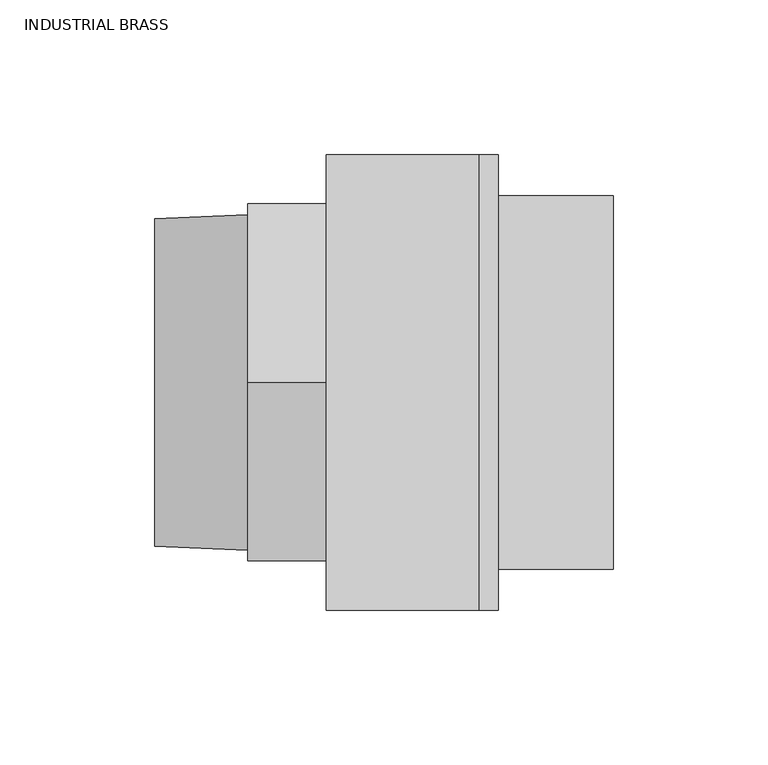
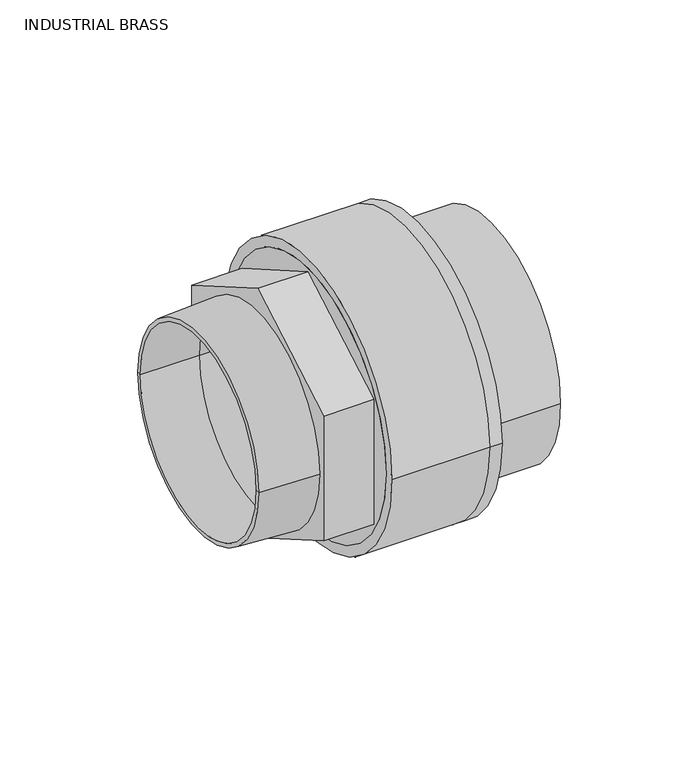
"""IFC4 building model written with IfcOpenShell, lengths in millimetres: valve geometry, Aquatherm - Transition Piece - M HEX : INDUSTRIAL BRASS."""

from ifc_helpers import new_model, si_unit, frame, origin, place, context, project, spatial, polyline, circle_curve, source, transform, mapped, element, save
from ifc_brep_helpers import plane_surface, cylinder_surface, revolved_surface, advanced_brep


def industrial_brass_34c5be5d(model_context):
    return source(origin(), model_context, "Body", "AdvancedBrep", [
        advanced_brep(
        [(49.276, -68.326, 0.0), (49.276, 68.326, 0.0), (49.276, -50.8, 0.0), (49.276, 50.8, 0.0), (0.0, -68.326, 0.0), (0.0, 68.326, 0.0), (0.0, 0.0, -66.5777236), (0.0, 57.658, -33.2888618), (0.0, 57.658, 33.2888618), (0.0, 0.0, 66.5777236), (0.0, -57.658, 33.2888618), (0.0, -57.658, -33.2888618), (0.0, -50.8, 0.0), (0.0, 50.8, 0.0), (-25.4, 0.0, -66.5777236), (-25.4, -57.658, -33.2888618), (-25.4, -57.658, 33.2888618), (-25.4, 0.0, 66.5777236), (-25.4, 57.658, 33.2888618), (-25.4, 57.658, -33.2888618), (-25.4, -54.2437038, 0.0), (-25.4, 54.2437038, 0.0), (-25.4, -50.8, 0.0), (-25.4, 50.8, 0.0), (-55.372, 50.8, 0.0), (-55.372, -50.8, 0.0), (-55.372, 52.9125462, 0.0), (-55.372, -52.9125462, 0.0)],
        [
            (0, 1, circle_curve(frame((49.276, 0.0, 0.0), z_axis=(1.0, 0.0, 0.0), x_axis=(0.0, 1.0, 0.0)), 68.326)),
            (1, 0, circle_curve(frame((49.276, 0.0, 0.0), z_axis=(1.0, 0.0, 0.0), x_axis=(0.0, 1.0, 0.0)), 68.326)),
            (2, 3, circle_curve(frame((49.276, 0.0, 0.0), z_axis=(-1.0, 0.0, 0.0), x_axis=(0.0, 1.0, 0.0)), 50.8)),
            (3, 2, circle_curve(frame((49.276, 0.0, 0.0), z_axis=(-1.0, 0.0, 0.0), x_axis=(0.0, 1.0, 0.0)), 50.8)),
            (4, 5, circle_curve(frame((0.0, 0.0, 0.0), z_axis=(-1.0, 0.0, 0.0), x_axis=(0.0, 1.0, 0.0)), 68.326)),
            (5, 4, circle_curve(frame((0.0, 0.0, 0.0), z_axis=(-1.0, 0.0, 0.0), x_axis=(0.0, 1.0, 0.0)), 68.326)),
            (6, 7),
            (7, 8),
            (8, 9),
            (9, 10),
            (10, 11),
            (11, 6),
            (0, 4),
            (5, 1),
            (2, 12),
            (12, 13, circle_curve(frame((0.0, 0.0, 0.0), z_axis=(-1.0, 0.0, 0.0), x_axis=(0.0, 1.0, 0.0)), 50.8)),
            (13, 3),
            (13, 12, circle_curve(frame((0.0, 0.0, 0.0), z_axis=(-1.0, 0.0, 0.0), x_axis=(0.0, 1.0, 0.0)), 50.8)),
            (14, 15),
            (15, 16),
            (16, 17),
            (17, 18),
            (18, 19),
            (19, 14),
            (20, 21, circle_curve(frame((-25.4, 0.0, 0.0), z_axis=(1.0, 0.0, 0.0), x_axis=(0.0, 1.0, 0.0)), 54.2437038)),
            (21, 20, circle_curve(frame((-25.4, 0.0, 0.0), z_axis=(1.0, 0.0, 0.0), x_axis=(0.0, 1.0, 0.0)), 54.2437038)),
            (19, 7),
            (6, 14),
            (18, 8),
            (17, 9),
            (16, 10),
            (15, 11),
            (12, 22),
            (22, 23, circle_curve(frame((-25.4, 0.0, 0.0), z_axis=(-1.0, 0.0, 0.0), x_axis=(0.0, 1.0, 0.0)), 50.8)),
            (23, 13),
            (23, 22, circle_curve(frame((-25.4, 0.0, 0.0), z_axis=(-1.0, 0.0, 0.0), x_axis=(0.0, 1.0, 0.0)), 50.8)),
            (23, 24),
            (24, 25, circle_curve(frame((-55.372, 0.0, 0.0), z_axis=(-1.0, 0.0, 0.0), x_axis=(0.0, 1.0, 0.0)), 50.8)),
            (25, 22),
            (25, 24, circle_curve(frame((-55.372, 0.0, 0.0), z_axis=(-1.0, 0.0, 0.0), x_axis=(0.0, 1.0, 0.0)), 50.8)),
            (24, 26),
            (26, 27, circle_curve(frame((-55.372, 0.0, 0.0), z_axis=(-1.0, 0.0, 0.0), x_axis=(0.0, 1.0, 0.0)), 52.9125462)),
            (27, 25),
            (27, 26, circle_curve(frame((-55.372, 0.0, 0.0), z_axis=(-1.0, 0.0, 0.0), x_axis=(0.0, 1.0, 0.0)), 52.9125462)),
            (26, 21),
            (20, 27),
        ],
        [
            plane_surface(frame((49.276, 68.326, 0.0), z_axis=(1.0, 0.0, 0.0), x_axis=(0.0, 0.0, 1.0))),
            plane_surface(frame((0.0, 68.326, 0.0), z_axis=(-1.0, 0.0, 0.0), x_axis=(0.0, 0.0, -1.0))),
            cylinder_surface(frame((0.0, 0.0, 0.0), z_axis=(1.0, 0.0, 0.0), x_axis=(0.0, 1.0, 0.0)), 68.326),
            revolved_surface(polyline([(0.0, 50.8, 0.0), (49.276, 50.8, 0.0)]), (17.447219, 0.0, 0.0), (-1.0, 0.0, 0.0)),
            plane_surface(frame((-25.4, 0.0, -66.5777236), z_axis=(-1.0, 0.0, 0.0), x_axis=(0.0, -0.8660254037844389, -0.4999999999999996))),
            plane_surface(frame((0.0, 0.0, -66.5777236), z_axis=(0.0, 0.4999999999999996, -0.8660254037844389), x_axis=(-1.0, 0.0, 0.0))),
            plane_surface(frame((0.0, 57.658, -33.2888618), z_axis=(0.0, 1.0, 0.0), x_axis=(-1.0, 0.0, 0.0))),
            plane_surface(frame((0.0, 57.658, 33.2888618), z_axis=(0.0, 0.49999999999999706, 0.8660254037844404), x_axis=(-1.0, 0.0, 0.0))),
            plane_surface(frame((0.0, 0.0, 66.5777236), z_axis=(0.0, -0.5000000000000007, 0.8660254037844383), x_axis=(-1.0, 0.0, 0.0))),
            plane_surface(frame((0.0, -57.658, 33.2888618), z_axis=(0.0, -1.0, 0.0), x_axis=(-1.0, 0.0, 0.0))),
            plane_surface(frame((0.0, -57.658, -33.2888618), z_axis=(0.0, -0.499999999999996, -0.8660254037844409), x_axis=(-1.0, 0.0, 0.0))),
            revolved_surface(polyline([(-25.4, 50.8, 0.0), (0.0, 50.8, 0.0)]), (0.0, 0.0, 0.0), (-1.0, 0.0, 0.0)),
            revolved_surface(polyline([(-55.372, 50.8, 0.0), (-25.39999999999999, 50.8, 0.0)]), (-90.2450688, 0.0, 0.0), (-1.0, 0.0, 0.0)),
            plane_surface(frame((-55.372, 0.0, 0.0), z_axis=(-1.0, 0.0, 0.0), x_axis=(0.0, 1.0, 0.0))),
            revolved_surface(polyline([(-25.4, 54.2437038, 0.0), (-55.372, 52.9125462, 0.0)]), (-90.2450688, 0.0, 0.0), (-1.0, 0.0, 0.0)),
        ],
        [
            (0, [[1, 2], [3, 4]]),
            (1, [[5, 6], [7, 8, 9, 10, 11, 12]]),
            (2, [[-1, 13, -6, 14]]),
            (2, [[-2, -14, -5, -13]]),
            (3, [[-3, 15, 16, 17]]),
            (3, [[-4, -17, 18, -15]]),
            (4, [[19, 20, 21, 22, 23, 24], [25, 26]]),
            (5, [[-24, 27, -7, 28]]),
            (6, [[-23, 29, -8, -27]]),
            (7, [[-22, 30, -9, -29]]),
            (8, [[-21, 31, -10, -30]]),
            (9, [[-20, 32, -11, -31]]),
            (10, [[-19, -28, -12, -32]]),
            (11, [[33, 34, 35, -16]]),
            (11, [[-33, -18, -35, 36]]),
            (12, [[37, 38, 39, -36]]),
            (12, [[-37, -34, -39, 40]]),
            (13, [[-38, 41, 42, 43]]),
            (13, [[-40, -43, 44, -41]]),
            (14, [[-42, 45, -25, 46]]),
            (14, [[-44, -46, -26, -45]]),
        ],
    ),
        advanced_brep(
        [(0.0, -73.533, 0.0), (0.0, 73.533, 0.0), (0.0, -68.326, 0.0), (0.0, 68.326, 0.0), (49.276, 73.533, 0.0), (49.276, -73.533, 0.0), (49.276, 68.326, 0.0), (49.276, -68.326, 0.0), (55.626, -73.533, 0.0), (55.626, 73.533, 0.0), (55.626, 60.325, 0.0), (55.626, -60.325, 0.0), (55.626, 54.991, 0.0), (55.626, -54.991, 0.0), (55.626, -44.45, 0.0), (55.626, 44.45, 0.0), (49.276, -44.45, 0.0), (49.276, 44.45, 0.0), (92.71, -60.325, 0.0), (92.71, 60.325, 0.0), (92.71, -54.991, 0.0), (92.71, 54.991, 0.0)],
        [
            (0, 1, circle_curve(frame((0.0, 0.0, 0.0), z_axis=(-1.0, 0.0, 0.0), x_axis=(0.0, 1.0, 0.0)), 73.533)),
            (1, 0, circle_curve(frame((0.0, 0.0, 0.0), z_axis=(-1.0, 0.0, 0.0), x_axis=(0.0, 1.0, 0.0)), 73.533)),
            (2, 3, circle_curve(frame((0.0, 0.0, 0.0), z_axis=(1.0, 0.0, 0.0), x_axis=(0.0, 1.0, 0.0)), 68.326)),
            (3, 2, circle_curve(frame((0.0, 0.0, 0.0), z_axis=(1.0, 0.0, 0.0), x_axis=(0.0, 1.0, 0.0)), 68.326)),
            (1, 4),
            (4, 5, circle_curve(frame((49.276, 0.0, 0.0), z_axis=(-1.0, 0.0, 0.0), x_axis=(0.0, 1.0, 0.0)), 73.533)),
            (5, 0),
            (5, 4, circle_curve(frame((49.276, 0.0, 0.0), z_axis=(-1.0, 0.0, 0.0), x_axis=(0.0, 1.0, 0.0)), 73.533)),
            (3, 6),
            (6, 7, circle_curve(frame((49.276, 0.0, 0.0), z_axis=(1.0, 0.0, 0.0), x_axis=(0.0, 1.0, 0.0)), 68.326)),
            (7, 2),
            (7, 6, circle_curve(frame((49.276, 0.0, 0.0), z_axis=(1.0, 0.0, 0.0), x_axis=(0.0, 1.0, 0.0)), 68.326)),
            (8, 9, circle_curve(frame((55.626, 0.0, 0.0), z_axis=(1.0, 0.0, 0.0), x_axis=(0.0, 1.0, 0.0)), 73.533)),
            (9, 8, circle_curve(frame((55.626, 0.0, 0.0), z_axis=(1.0, 0.0, 0.0), x_axis=(0.0, 1.0, 0.0)), 73.533)),
            (10, 11, circle_curve(frame((55.626, 0.0, 0.0), z_axis=(-1.0, 0.0, 0.0), x_axis=(0.0, 1.0, 0.0)), 60.325)),
            (11, 10, circle_curve(frame((55.626, 0.0, 0.0), z_axis=(-1.0, 0.0, 0.0), x_axis=(0.0, 1.0, 0.0)), 60.325)),
            (12, 13, circle_curve(frame((55.626, 0.0, 0.0), z_axis=(1.0, 0.0, 0.0), x_axis=(0.0, 1.0, 0.0)), 54.991)),
            (13, 12, circle_curve(frame((55.626, 0.0, 0.0), z_axis=(1.0, 0.0, 0.0), x_axis=(0.0, 1.0, 0.0)), 54.991)),
            (14, 15, circle_curve(frame((55.626, 0.0, 0.0), z_axis=(-1.0, 0.0, 0.0), x_axis=(0.0, 1.0, 0.0)), 44.45)),
            (15, 14, circle_curve(frame((55.626, 0.0, 0.0), z_axis=(-1.0, 0.0, 0.0), x_axis=(0.0, 1.0, 0.0)), 44.45)),
            (16, 17, circle_curve(frame((49.276, 0.0, 0.0), z_axis=(1.0, 0.0, 0.0), x_axis=(0.0, 1.0, 0.0)), 44.45)),
            (17, 16, circle_curve(frame((49.276, 0.0, 0.0), z_axis=(1.0, 0.0, 0.0), x_axis=(0.0, 1.0, 0.0)), 44.45)),
            (8, 5),
            (4, 9),
            (14, 16),
            (17, 15),
            (18, 19, circle_curve(frame((92.71, 0.0, 0.0), z_axis=(1.0, 0.0, 0.0), x_axis=(0.0, 1.0, 0.0)), 60.325)),
            (19, 18, circle_curve(frame((92.71, 0.0, 0.0), z_axis=(1.0, 0.0, 0.0), x_axis=(0.0, 1.0, 0.0)), 60.325)),
            (20, 21, circle_curve(frame((92.71, 0.0, 0.0), z_axis=(-1.0, 0.0, 0.0), x_axis=(0.0, 1.0, 0.0)), 54.991)),
            (21, 20, circle_curve(frame((92.71, 0.0, 0.0), z_axis=(-1.0, 0.0, 0.0), x_axis=(0.0, 1.0, 0.0)), 54.991)),
            (18, 11),
            (10, 19),
            (20, 13),
            (12, 21),
        ],
        [
            plane_surface(frame((0.0, 73.533, 0.0), z_axis=(-1.0, 0.0, 0.0), x_axis=(0.0, 0.0, -1.0))),
            cylinder_surface(frame((0.0, 0.0, 0.0), z_axis=(1.0, 0.0, 0.0), x_axis=(0.0, 1.0, 0.0)), 73.533),
            revolved_surface(polyline([(0.0, 68.326, 0.0), (49.276, 68.326, 0.0)]), (-38.1, 0.0, 0.0), (-1.0, 0.0, 0.0)),
            plane_surface(frame((55.626, 73.533, 0.0), z_axis=(1.0, 0.0, 0.0), x_axis=(0.0, 0.0, 1.0))),
            plane_surface(frame((49.276, 73.533, 0.0), z_axis=(-1.0, 0.0, 0.0), x_axis=(0.0, 0.0, -1.0))),
            cylinder_surface(frame((49.276, 0.0, 0.0), z_axis=(1.0, 0.0, 0.0), x_axis=(0.0, 1.0, 0.0)), 73.533),
            revolved_surface(polyline([(49.27600000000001, 44.45, 0.0), (55.626000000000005, 44.45, 0.0)]), (-19.05, 0.0, 0.0), (-1.0, 0.0, 0.0)),
            plane_surface(frame((92.71, 60.325, 0.0), z_axis=(1.0, 0.0, 0.0), x_axis=(0.0, 0.0, 1.0))),
            cylinder_surface(frame((55.626, 0.0, 0.0), z_axis=(1.0, 0.0, 0.0), x_axis=(0.0, 1.0, 0.0)), 60.325),
            revolved_surface(polyline([(55.626, 54.991, 0.0), (92.71, 54.991, 0.0)]), (0.0, 0.0, 0.0), (-1.0, 0.0, 0.0)),
        ],
        [
            (0, [[1, 2], [3, 4]]),
            (1, [[-2, 5, 6, 7]]),
            (1, [[-1, -7, 8, -5]]),
            (2, [[-4, 9, 10, 11]]),
            (2, [[-3, -11, 12, -9]]),
            (3, [[13, 14], [15, 16]]),
            (3, [[17, 18], [19, 20]]),
            (4, [[-10, -12], [21, 22]]),
            (5, [[-13, 23, -6, 24]]),
            (5, [[-14, -24, -8, -23]]),
            (6, [[-19, 25, -22, 26]]),
            (6, [[-20, -26, -21, -25]]),
            (7, [[27, 28], [29, 30]]),
            (8, [[-27, 31, -15, 32]]),
            (8, [[-28, -32, -16, -31]]),
            (9, [[-29, 33, -17, 34]]),
            (9, [[-30, -34, -18, -33]]),
        ],
    ),
    ])


if __name__ == "__main__":
    model = new_model("IFC4")
    model_context = context("Model", 3, world=origin())
    ifc_project = project(units=[si_unit("LENGTHUNIT", "METRE", prefix="MILLI")], contexts=[model_context])
    site = spatial("IfcSite", under=ifc_project)
    building = spatial("IfcBuilding", under=site)
    placement = place(None, origin())
    industrial_brass_shape = industrial_brass_34c5be5d(model_context)
    element("IfcValve", 1, ObjectType="Aquatherm - Transition Piece - M HEX : INDUSTRIAL BRASS", at=placement, inside=building, context=model_context, shape_type="MappedRepresentation", body=[
        mapped(industrial_brass_shape, transform((0.0, 0.0, 0.0), x_axis=(1.0, 0.0, 0.0), y_axis=(0.0, 1.0, 0.0), z_axis=(0.0, 0.0, 1.0))),
    ])
    save(model, "model.ifc")
